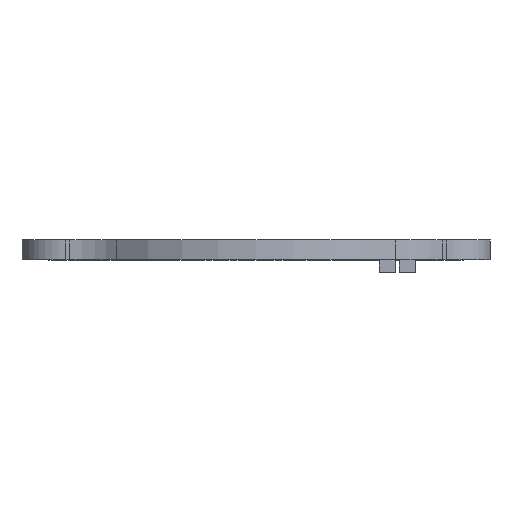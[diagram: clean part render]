
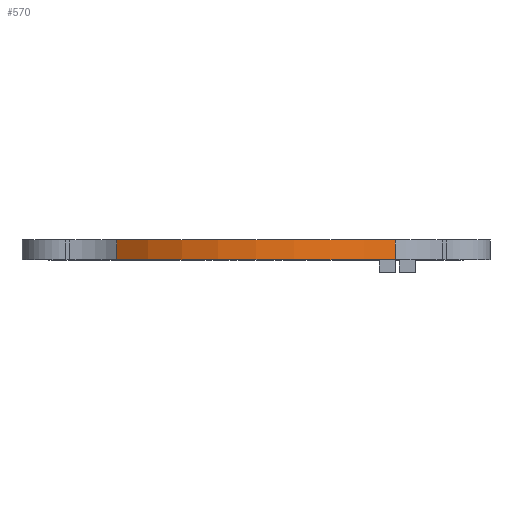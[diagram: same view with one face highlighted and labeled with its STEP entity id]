
A CAD part, top view. The second image highlights one B-rep face of the part: STEP entity #570.
In plain terms, the highlighted cylindrical face has radius 17.8 mm (diameter 35.6 mm), a partial arc.
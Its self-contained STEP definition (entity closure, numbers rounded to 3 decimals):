
#32 = CIRCLE ( 'NONE', #935, 17.8 ) ;
#115 = CARTESIAN_POINT ( 'NONE',  ( 0., 1.6, 0. ) ) ;
#117 = CARTESIAN_POINT ( 'NONE',  ( 11.301, 1.6, 13.752 ) ) ;
#169 = AXIS2_PLACEMENT_3D ( 'NONE', #170, #1315, #663 ) ;
#170 = CARTESIAN_POINT ( 'NONE',  ( 0., 1.6, 0. ) ) ;
#220 = CARTESIAN_POINT ( 'NONE',  ( 0., 0., 0. ) ) ;
#347 = VECTOR ( 'NONE', #932, 1000. ) ;
#349 = DIRECTION ( 'NONE',  ( 0., 0., 1. ) ) ;
#426 = VERTEX_POINT ( 'NONE', #865 ) ;
#432 = EDGE_CURVE ( 'NONE', #1391, #912, #1383, .T. ) ;
#457 = CARTESIAN_POINT ( 'NONE',  ( -11.301, 1.6, 13.752 ) ) ;
#470 = ORIENTED_EDGE ( 'NONE', *, *, #968, .T. ) ;
#570 = ADVANCED_FACE ( 'NONE', ( #1294 ), #1545, .T. ) ;
#605 = ORIENTED_EDGE ( 'NONE', *, *, #432, .F. ) ;
#663 = DIRECTION ( 'NONE',  ( 0., 0., -1. ) ) ;
#680 = LINE ( 'NONE', #457, #347 ) ;
#722 = VERTEX_POINT ( 'NONE', #778 ) ;
#778 = CARTESIAN_POINT ( 'NONE',  ( -11.301, 1.6, 13.752 ) ) ;
#787 = AXIS2_PLACEMENT_3D ( 'NONE', #115, #1468, #349 ) ;
#865 = CARTESIAN_POINT ( 'NONE',  ( -11.301, 0., 13.752 ) ) ;
#877 = EDGE_CURVE ( 'NONE', #722, #426, #680, .T. ) ;
#912 = VERTEX_POINT ( 'NONE', #1432 ) ;
#932 = DIRECTION ( 'NONE',  ( 0., -1., 0. ) ) ;
#935 = AXIS2_PLACEMENT_3D ( 'NONE', #220, #1370, #1340 ) ;
#968 = EDGE_CURVE ( 'NONE', #426, #912, #32, .T. ) ;
#1086 = EDGE_CURVE ( 'NONE', #722, #1391, #1495, .T. ) ;
#1121 = DIRECTION ( 'NONE',  ( 0., -1., 0. ) ) ;
#1129 = EDGE_LOOP ( 'NONE', ( #470, #605, #1135, #1494 ) ) ;
#1135 = ORIENTED_EDGE ( 'NONE', *, *, #1086, .F. ) ;
#1251 = CARTESIAN_POINT ( 'NONE',  ( 11.301, 1.6, 13.752 ) ) ;
#1294 = FACE_OUTER_BOUND ( 'NONE', #1129, .T. ) ;
#1315 = DIRECTION ( 'NONE',  ( 0., -1., 0. ) ) ;
#1340 = DIRECTION ( 'NONE',  ( 0., 0., 1. ) ) ;
#1370 = DIRECTION ( 'NONE',  ( 0., 1., 0. ) ) ;
#1383 = LINE ( 'NONE', #1251, #1558 ) ;
#1391 = VERTEX_POINT ( 'NONE', #117 ) ;
#1432 = CARTESIAN_POINT ( 'NONE',  ( 11.301, 0., 13.752 ) ) ;
#1468 = DIRECTION ( 'NONE',  ( 0., 1., 0. ) ) ;
#1494 = ORIENTED_EDGE ( 'NONE', *, *, #877, .T. ) ;
#1495 = CIRCLE ( 'NONE', #787, 17.8 ) ;
#1545 = CYLINDRICAL_SURFACE ( 'NONE', #169, 17.8 ) ;
#1558 = VECTOR ( 'NONE', #1121, 1000. ) ;
